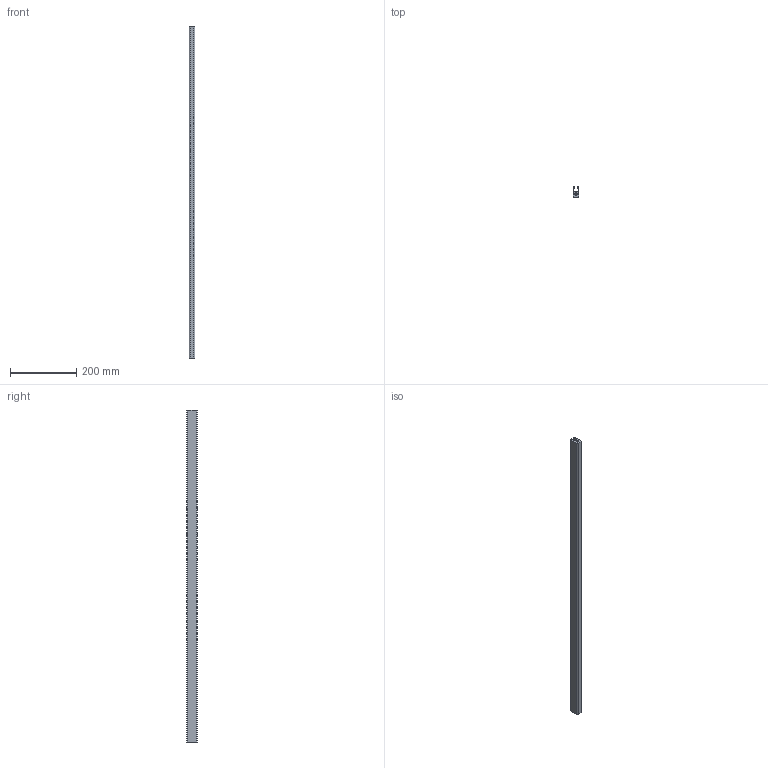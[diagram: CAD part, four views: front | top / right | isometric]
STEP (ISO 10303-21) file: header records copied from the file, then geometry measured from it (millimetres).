
FILE_DESCRIPTION (( 'STEP AP214' ), '1' );
FILE_NAME ('SA02001.step', '2024-12-03T16:28:34', ( '' ), ( '' ), 'SwSTEP 2.0', 'SolidWorks 2023', '' );
FILE_SCHEMA (( 'AUTOMOTIVE_DESIGN' ));
Length unit declared in the file: millimetre
Products named in the file (1): SA02001
Bounding box: 18 x 32 x 1000 mm (x, y, z)
Volume: 341157.8 mm3; surface area: 156987.7 mm2
Topology: 1 solids, 1 shells, 21 faces, 57 edges, 38 vertices
Faces by surface type: plane 13, cylinder 8
Full cylindrical faces by diameter (mm): 7.45 x1
Entity records: 689 total; most frequent: DIRECTION 116, CARTESIAN_POINT 116, ORIENTED_EDGE 112, EDGE_CURVE 56, LINE 40, VECTOR 40, AXIS2_PLACEMENT_3D 38, VERTEX_POINT 38
